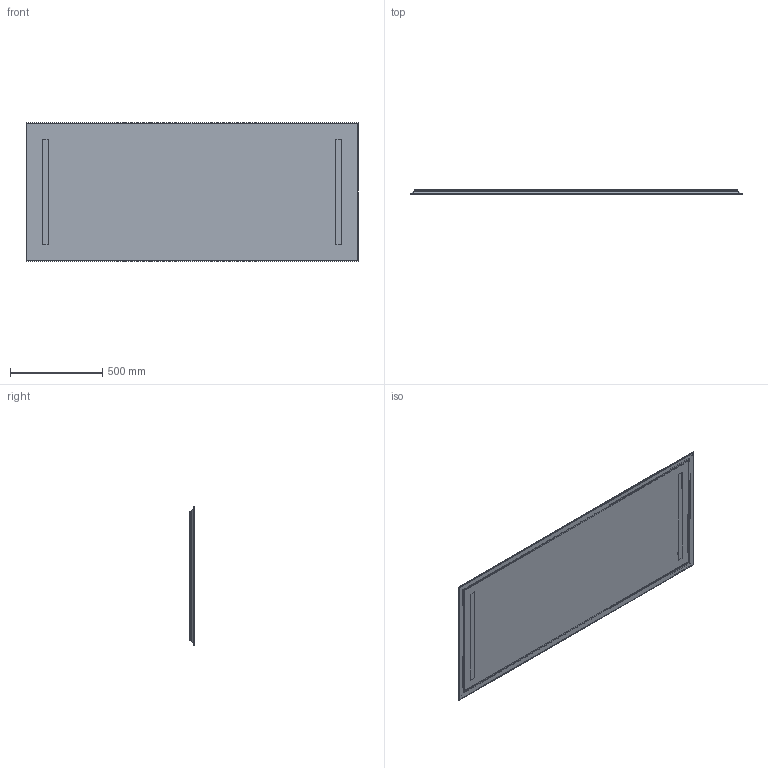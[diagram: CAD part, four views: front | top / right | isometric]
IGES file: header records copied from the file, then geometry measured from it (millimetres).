
Start section: Data from Parasolid IGES Translator 19.0.9, Copyright(c) 2006 Siemens PL M Software. All Rights Reserved.
Global section: file name: noorth-mirror-H 75 D 2,8 W 180_2137.igs; native system: By Siemens PLM Incorporated; preprocessor: XPlus GENERIC/IGES 19.0.9; author: Noname; organization: Noname; date: 20200519.091537; units: metre
Bounding box: 1800 x 28 x 750 mm (x, y, z)
Volume: 6075567.1 mm3; surface area: 3869325.6 mm2
Topology: 7 solids, 7 shells, 294 faces, 816 edges, 536 vertices
Faces by surface type: plane 278, cylinder 16
